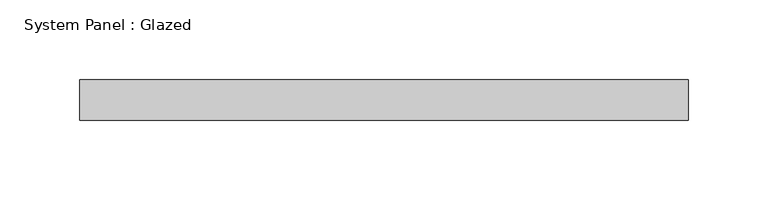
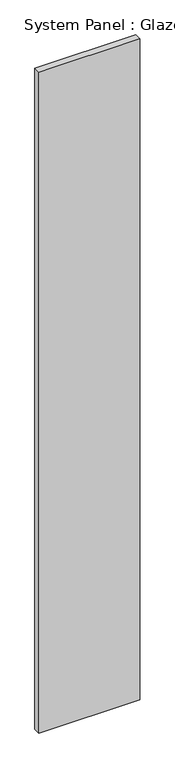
"""IFC4 building model written with IfcOpenShell, lengths in millimetres: plate geometry, System Panel : Glazed."""

import ifcopenshell
import ifcopenshell.guid

model = None  # the IFC model being written
_history = None  # IfcOwnerHistory: only IFC2X3 demands one
_inside = {}  # id of a spatial element -> (the spatial element, [elements in it])
_under = {}  # id of a project, library or spatial element -> (it, [spatial elements below it])
_declared = {}  # id of a project -> (the project, [libraries it declares])
_typed = {}  # id of a type object -> (the type object, [elements of that type])
_made_of = {}  # id of a material, layer set ... -> (it, [elements and type objects made of it])


def new_model(schema):
    """Start an empty IFC model of exactly this schema.

    Asked for "IFC4X3", IfcOpenShell would pick the latest addendum, in which some entities
    have other attributes; the version numbers below select the first issue.
    IFC2X3 requires an IfcOwnerHistory on every rooted entity: one is made here for all.
    """
    global model, _history
    if schema == "IFC4X3":
        model = ifcopenshell.file(schema_version=(4, 3, 0, 0))
    else:
        model = ifcopenshell.file(schema=schema)
    _inside.clear()
    _under.clear()
    _declared.clear()
    _typed.clear()
    _made_of.clear()
    _history = None
    if model.schema == "IFC2X3":
        org = make("IfcOrganization", Name="unknown")
        user = make(
            "IfcPersonAndOrganization",
            ThePerson=make("IfcPerson", FamilyName="unknown"),
            TheOrganization=org,
        )
        app = make(
            "IfcApplication",
            ApplicationDeveloper=org,
            Version="unknown",
            ApplicationFullName="unknown",
            ApplicationIdentifier="unknown",
        )
        _history = make(
            "IfcOwnerHistory",
            OwningUser=user,
            OwningApplication=app,
            ChangeAction="ADDED",
            CreationDate=0,
        )
    return model


def make(cls, **values):
    """One entity of the class cls with the attributes given. An attribute that is None is left unset."""
    return model.create_entity(
        cls, **{name: value for name, value in values.items() if value is not None}
    )


def rooted(cls, **values):
    """An entity with a GlobalId (a new one), such as an element, a storey or a relation."""
    return make(cls, GlobalId=ifcopenshell.guid.new(), OwnerHistory=_history, **values)


def si_unit(unit_type, name, prefix=None):
    """IfcSIUnit, for example si_unit("LENGTHUNIT", "METRE", prefix="MILLI")."""
    return make("IfcSIUnit", UnitType=unit_type, Prefix=prefix, Name=name)


def assignment(units):
    """IfcUnitAssignment: the units of a project."""
    return None if units is None else make("IfcUnitAssignment", Units=units)


def point(xyz):
    """IfcCartesianPoint."""
    return None if xyz is None else make("IfcCartesianPoint", Coordinates=xyz)


def direction(xyz):
    """IfcDirection."""
    return None if xyz is None else make("IfcDirection", DirectionRatios=xyz)


def frame(location, z_axis=None, x_axis=None):
    """IfcAxis2Placement3D, a coordinate frame: its origin and axes. An axis left out is left unset."""
    return make(
        "IfcAxis2Placement3D",
        Location=point(location),
        Axis=direction(z_axis),
        RefDirection=direction(x_axis),
    )


def origin():
    """The frame at (0, 0, 0) with its axes left unset."""
    return frame((0.0, 0.0, 0.0))


def origin_with_axes():
    """The frame at (0, 0, 0) with the z axis (0, 0, 1) and the x axis (1, 0, 0) written out."""
    return frame((0.0, 0.0, 0.0), z_axis=(0.0, 0.0, 1.0), x_axis=(1.0, 0.0, 0.0))


def place(relative_to, where):
    """IfcLocalPlacement: puts the frame where relative to a parent placement (None: the world)."""
    return make(
        "IfcLocalPlacement", PlacementRelTo=relative_to, RelativePlacement=where
    )


def context(
    kind, dimensions, precision=None, world=None, true_north=None, identifier=None
):
    """IfcGeometricRepresentationContext, for example the 3D "Model" context."""
    return make(
        "IfcGeometricRepresentationContext",
        ContextIdentifier=identifier,
        ContextType=kind,
        CoordinateSpaceDimension=dimensions,
        Precision=precision,
        WorldCoordinateSystem=world,
        TrueNorth=true_north,
    )


def project(units=None, contexts=None):
    """IfcProject with its units and contexts."""
    return rooted(
        "IfcProject",
        Name="project",
        RepresentationContexts=contexts,
        UnitsInContext=assignment(units),
    )


def spatial(cls, under=None, at=None, **own):
    """A site, building, storey or space (cls), placed at a placement, below another one or the project."""
    s = rooted(cls, ObjectPlacement=at, **own)
    if under is not None:
        _under.setdefault(under.id(), (under, []))[1].append(s)
    return s


def polyline(points):
    """IfcPolyline through the points."""
    return make("IfcPolyline", Points=[point(p) for p in points])


def outline(outer, holes=None, kind="AREA"):
    """IfcArbitraryClosedProfileDef: a profile drawn as a closed curve; with holes, ...WithVoids."""
    if holes is None:
        return make("IfcArbitraryClosedProfileDef", ProfileType=kind, OuterCurve=outer)
    return make(
        "IfcArbitraryProfileDefWithVoids",
        ProfileType=kind,
        OuterCurve=outer,
        InnerCurves=holes,
    )


def extrude(swept, where, along, depth):
    """IfcExtrudedAreaSolid: the profile swept, set in the frame where, extruded along a direction by depth."""
    return make(
        "IfcExtrudedAreaSolid",
        SweptArea=swept,
        Position=where,
        ExtrudedDirection=direction(along),
        Depth=depth,
    )


def shape(context_of_items, identifier, shape_type, items):
    """IfcShapeRepresentation: the items that make up one representation, for example the "Body"."""
    return make(
        "IfcShapeRepresentation",
        ContextOfItems=context_of_items,
        RepresentationIdentifier=identifier,
        RepresentationType=shape_type,
        Items=items,
    )


def source(mapping_origin, context_of_items, identifier, shape_type, items):
    """IfcRepresentationMap: a shape defined once, which mapped items show again and again."""
    return make(
        "IfcRepresentationMap",
        MappingOrigin=mapping_origin,
        MappedRepresentation=shape(context_of_items, identifier, shape_type, items),
    )


def transform(
    local_origin,
    x_axis=None,
    y_axis=None,
    z_axis=None,
    scale=None,
    scale2=None,
    scale3=None,
    uniform=True,
):
    """IfcCartesianTransformationOperator3D, or its non-uniform kind. x_axis, y_axis, z_axis: its Axis1, 2, 3."""
    if uniform:
        return make(
            "IfcCartesianTransformationOperator3D",
            Axis1=direction(x_axis),
            Axis2=direction(y_axis),
            LocalOrigin=point(local_origin),
            Scale=scale,
            Axis3=direction(z_axis),
        )
    return make(
        "IfcCartesianTransformationOperator3DnonUniform",
        Axis1=direction(x_axis),
        Axis2=direction(y_axis),
        LocalOrigin=point(local_origin),
        Scale=scale,
        Axis3=direction(z_axis),
        Scale2=scale2,
        Scale3=scale3,
    )


def mapped(mapping_source, mapping_target):
    """IfcMappedItem: shows the shape of a source again, moved by a transform."""
    return make(
        "IfcMappedItem", MappingSource=mapping_source, MappingTarget=mapping_target
    )


def made_of(thing, what):
    """Note that an element or type object is made of a material, layer set ...; save() writes the relation."""
    if what is not None:
        _made_of.setdefault(what.id(), (what, []))[1].append(thing)
    return thing


def element(
    cls,
    number,
    at=None,
    inside=None,
    cuts=None,
    type_object=None,
    material=None,
    context=None,
    identifier="Body",
    shape_type=None,
    held_by="IfcProductDefinitionShape",
    body=None,
    shapes=None,
    **own,
):
    """One element of the class cls, such as IfcWall. Its Tag is "e" and its number.

    at: its placement. inside: the storey or other place that contains it. cuts: it is an
    opening in that element (IfcRelVoidsElement). A single representation is given by context,
    identifier, shape_type and body (its items); several are given by shapes. held_by: the class
    of the entity that holds the representations. save() writes the other relations.
    """
    e = rooted(cls, Tag="e%d" % number, ObjectPlacement=at, **own)
    if body is not None:
        shapes = [shape(context, identifier, shape_type, body)]
    if shapes is not None:
        e.Representation = make(held_by, Representations=shapes)
    if inside is not None:
        _inside.setdefault(inside.id(), (inside, []))[1].append(e)
    if cuts is not None:
        rooted(
            "IfcRelVoidsElement", RelatingBuildingElement=cuts, RelatedOpeningElement=e
        )
    if type_object is not None:
        _typed.setdefault(type_object.id(), (type_object, []))[1].append(e)
    return made_of(e, material)


def aggregate(whole, parts):
    """IfcRelAggregates: a whole, such as a stair, and the parts it consists of."""
    return rooted("IfcRelAggregates", RelatingObject=whole, RelatedObjects=parts)


def save(model, path):
    """Write the relations noted so far, then the file.

    IfcRelAggregates (storeys below a building ...), IfcRelContainedInSpatialStructure (elements
    in a storey), IfcRelDefinesByType, IfcRelAssociatesMaterial and IfcRelDeclares: one each for
    every whole, place, type object, material and project.
    """
    for whole, parts in _under.values():
        aggregate(whole, parts)
    for where, things in _inside.values():
        rooted(
            "IfcRelContainedInSpatialStructure",
            RelatedElements=things,
            RelatingStructure=where,
        )
    for kind, things in _typed.values():
        rooted("IfcRelDefinesByType", RelatedObjects=things, RelatingType=kind)
    for what, things in _made_of.values():
        rooted("IfcRelAssociatesMaterial", RelatedObjects=things, RelatingMaterial=what)
    for by, libraries in _declared.values():
        rooted("IfcRelDeclares", RelatingContext=by, RelatedDefinitions=libraries)
    model.write(path)


def system_panel_glazed_3e02181d(model_context):
    return source(origin(), model_context, "Body", "SweptSolid", [
        extrude(outline(polyline([(190.5, 19.05), (-190.5, 19.05), (-190.5, 44.45), (190.5, 44.45), (190.5, 19.05)])), origin_with_axes(), (0.0, 0.0, 1.0), 2640.780647),
    ])


if __name__ == "__main__":
    model = new_model("IFC4")
    model_context = context("Model", 3, world=origin())
    ifc_project = project(units=[si_unit("LENGTHUNIT", "METRE", prefix="MILLI")], contexts=[model_context])
    site = spatial("IfcSite", under=ifc_project)
    building = spatial("IfcBuilding", under=site)
    placement = place(None, origin())
    system_panel_glazed_shape = system_panel_glazed_3e02181d(model_context)
    element("IfcPlate", 1, ObjectType="System Panel : Glazed", at=placement, inside=building, context=model_context, shape_type="MappedRepresentation", body=[
        mapped(system_panel_glazed_shape, transform((0.0, 0.0, 0.0), x_axis=(1.0, 0.0, 0.0), y_axis=(0.0, 1.0, 0.0), z_axis=(0.0, 0.0, 1.0))),
    ])
    save(model, "model.ifc")
